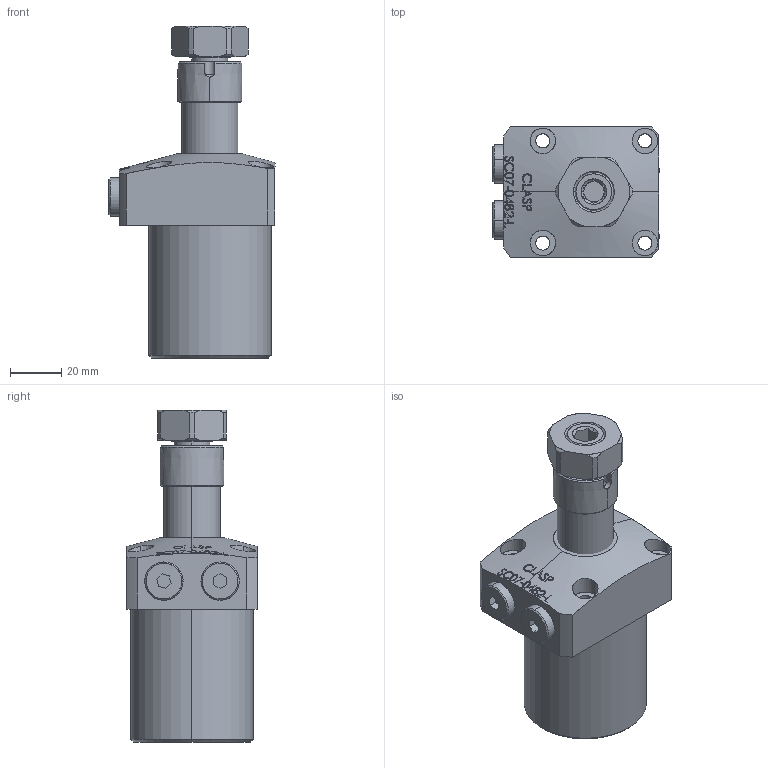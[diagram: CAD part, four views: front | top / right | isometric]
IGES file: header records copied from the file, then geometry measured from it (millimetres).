
Start section: SolidWorks IGES file using analytic representation for surfaces
Global section: file name: D:\karuppas\Clasp\3D model\SWING CYLINDER\Top Mounting swing cylinder\SC07-0482-L\SC07-0482-L.IGS; native system: SolidWorks 2017; preprocessor: SolidWorks 2017; author: pc; date: 220705.232131; units: millimetre
Bounding box: 65 x 51 x 130 mm (x, y, z)
Surface area: 35147.5 mm2 (no closed solid volume)
Topology: 0 solids, 0 shells, 367 faces, 6168 edges, 6167 vertices
Faces by surface type: bspline 252, revolution 115
